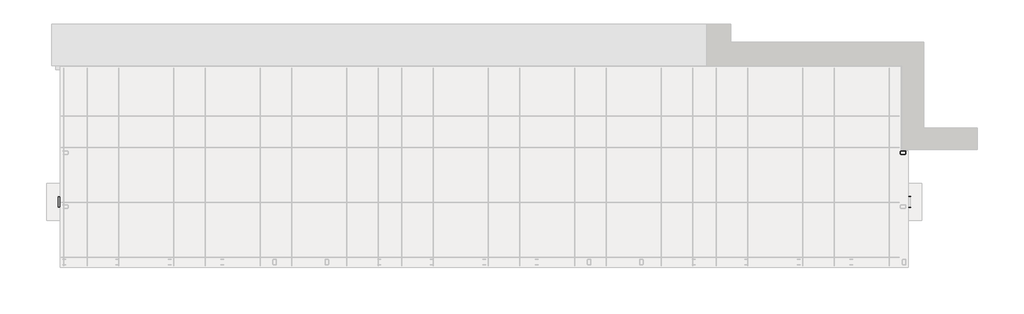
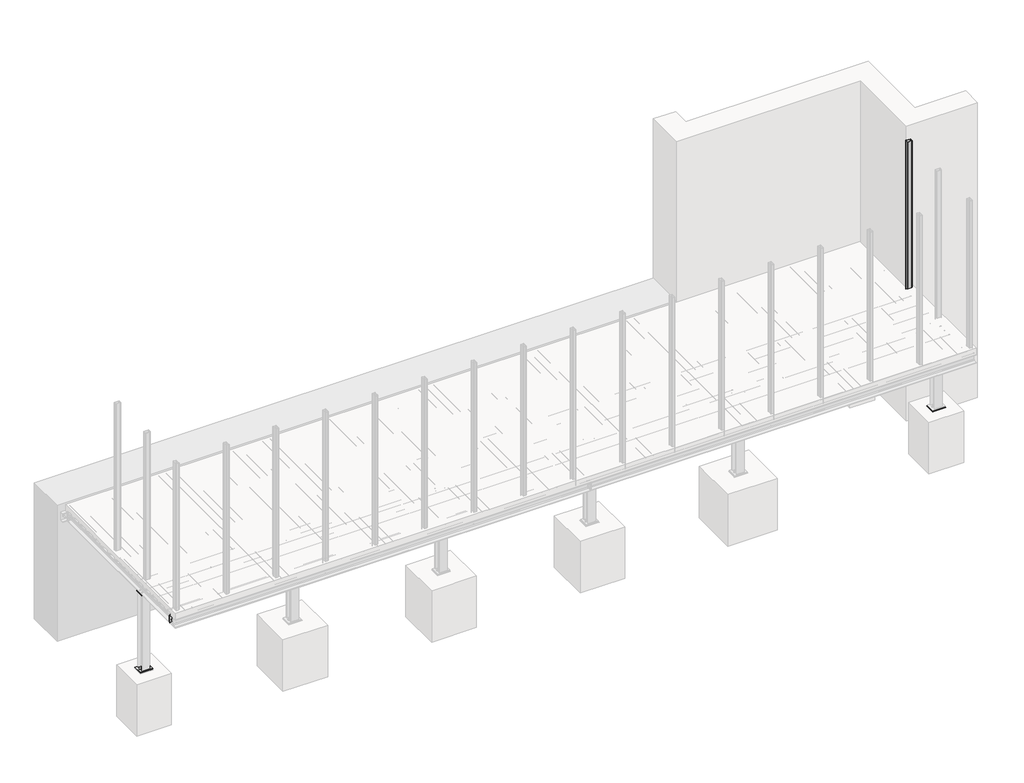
# One storey, part 6 of 36: 10 proxies, 1 beam, 1 column, 1 plate.
"""IFC4 building model written with IfcOpenShell, lengths in millimetres."""

from ifc_helpers import new_model, si_unit, point, frame, frame_2d, origin, place, context, project, spatial, polyline, circle_curve, ellipse_curve, trimmed, segment, composite_curve, outline, extrude, faceted_brep, element, save
from ifc_brep_helpers import plane_surface, revolved_surface, advanced_brep

model = new_model("IFC4")

# Units and contexts
model_context = context("Model", 3, world=origin())
ifc_project = project(units=[si_unit("LENGTHUNIT", "METRE", prefix="MILLI")], contexts=[model_context])

# Site, building, storey
site = spatial("IfcSite", under=ifc_project)
building = spatial("IfcBuilding", under=site)
storey = spatial("IfcBuildingStorey", under=building, Name="Základy", Elevation=-1200.0)

# Beam
placement = place(None, origin())
element("IfcBeam", 1, ObjectType="HEB180", at=placement, inside=storey, context=model_context, shape_type="AdvancedBrep", body=[
    advanced_brep(
    [(16140.0, 210.0, -160.0), (15960.0, 210.0, -160.0), (15960.0, 210.0, -174.0), (16030.75, 210.0, -174.0), (16045.75, 210.0, -189.0), (16045.75, 210.0, -311.0), (16030.75, 210.0, -326.0), (15960.0, 210.0, -326.0), (15960.0, 210.0, -340.0), (16140.0, 210.0, -340.0), (16140.0, 210.0, -326.0), (16069.25, 210.0, -326.0), (16054.25, 210.0, -311.0), (16054.25, 210.0, -189.0), (16069.25, 210.0, -174.0), (16140.0, 210.0, -174.0), (16140.0, 2230.0, -160.0), (15960.0, 2050.0, -160.0), (15960.0, 2050.0, -174.0), (16030.75, 2120.75, -174.0), (16045.75, 2135.75, -189.0), (16045.75, 2135.75, -311.0), (16030.75, 2120.75, -326.0), (15960.0, 2050.0, -326.0), (15960.0, 2050.0, -340.0), (16140.0, 2230.0, -340.0), (16140.0, 2230.0, -326.0), (16069.25, 2159.25, -326.0), (16054.25, 2144.25, -311.0), (16054.25, 2144.25, -189.0), (16069.25, 2159.25, -174.0), (16140.0, 2230.0, -174.0)],
    [
        (0, 1),
        (1, 2),
        (2, 3),
        (3, 4, circle_curve(frame((16030.75, 210.0, -189.0), z_axis=(0.0, 1.0, 0.0), x_axis=(-1.0, 0.0, 0.0)), 15.0)),
        (4, 5),
        (5, 6, circle_curve(frame((16030.75, 210.0, -311.0), z_axis=(0.0, 1.0, 0.0), x_axis=(-1.0, 0.0, 0.0)), 15.0)),
        (6, 7),
        (7, 8),
        (8, 9),
        (9, 10),
        (10, 11),
        (11, 12, circle_curve(frame((16069.25, 210.0, -311.0), z_axis=(0.0, 1.0, 0.0), x_axis=(-1.0, 0.0, 0.0)), 15.0)),
        (12, 13),
        (13, 14, circle_curve(frame((16069.25, 210.0, -189.0), z_axis=(0.0, 1.0, 0.0), x_axis=(-1.0, 0.0, 0.0)), 15.0)),
        (14, 15),
        (15, 0),
        (0, 16),
        (16, 17),
        (17, 1),
        (17, 18),
        (18, 2),
        (18, 19),
        (19, 3),
        (19, 20, ellipse_curve(frame((16030.75, 2120.75, -189.0), z_axis=(-0.7071067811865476, 0.7071067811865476, 0.0), x_axis=(0.7071067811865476, 0.7071067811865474, 0.0)), 21.2132034, 15.0)),
        (20, 4),
        (20, 21),
        (21, 5),
        (21, 22, ellipse_curve(frame((16030.75, 2120.75, -311.0), z_axis=(-0.7071067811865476, 0.7071067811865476, 0.0), x_axis=(0.7071067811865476, 0.7071067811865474, 0.0)), 21.2132034, 15.0)),
        (22, 6),
        (22, 23),
        (23, 7),
        (23, 24),
        (24, 8),
        (24, 25),
        (25, 9),
        (25, 26),
        (26, 10),
        (26, 27),
        (27, 11),
        (27, 28, ellipse_curve(frame((16069.25, 2159.25, -311.0), z_axis=(-0.7071067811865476, 0.7071067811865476, 0.0), x_axis=(0.7071067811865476, 0.7071067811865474, 0.0)), 21.2132034, 15.0)),
        (28, 12),
        (28, 29),
        (29, 13),
        (29, 30, ellipse_curve(frame((16069.25, 2159.25, -189.0), z_axis=(-0.7071067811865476, 0.7071067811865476, 0.0), x_axis=(0.7071067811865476, 0.7071067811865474, 0.0)), 21.2132034, 15.0)),
        (30, 14),
        (30, 31),
        (31, 15),
        (31, 16),
    ],
    [
        plane_surface(frame((16050.0, 210.0, -250.0), z_axis=(0.0, -1.0, 0.0), x_axis=(0.0, 0.0, -1.0))),
        plane_surface(frame((16140.0, 210.0, -160.0), z_axis=(0.0, 0.0, 1.0), x_axis=(0.0, 1.0, 0.0))),
        plane_surface(frame((15960.0, 210.0, -160.0), z_axis=(-1.0, 0.0, 0.0), x_axis=(0.0, 1.0, 0.0))),
        plane_surface(frame((15960.0, 210.0, -174.0), z_axis=(0.0, 0.0, -1.0), x_axis=(0.0, 1.0, 0.0))),
        revolved_surface(polyline([(16015.75, 2135.75, -189.0), (16015.75, 210.0, -189.0)]), (16030.75, 2240.0, -189.0), (0.0, 1.0, 0.0)),
        plane_surface(frame((16045.75, 210.0, -189.0), z_axis=(-1.0, 0.0, 0.0), x_axis=(0.0, 1.0, 0.0))),
        revolved_surface(polyline([(16015.75, 2135.75, -311.0), (16015.75, 210.0, -311.0)]), (16030.75, 2240.0, -311.0), (0.0, 1.0, 0.0)),
        plane_surface(frame((16030.75, 210.0, -326.0), z_axis=(0.0, 0.0, 1.0), x_axis=(0.0, 1.0, 0.0))),
        plane_surface(frame((15960.0, 210.0, -326.0), z_axis=(-1.0, 0.0, 0.0), x_axis=(0.0, 1.0, 0.0))),
        plane_surface(frame((15960.0, 210.0, -340.0), z_axis=(0.0, 0.0, -1.0), x_axis=(0.0, 1.0, 0.0))),
        plane_surface(frame((16140.0, 210.0, -340.0), z_axis=(1.0, 0.0, 0.0), x_axis=(0.0, 1.0, 0.0))),
        plane_surface(frame((16140.0, 210.0, -326.0), z_axis=(0.0, 0.0, 1.0), x_axis=(0.0, 1.0, 0.0))),
        revolved_surface(polyline([(16054.25, 2174.2499999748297, -311.0), (16054.25, 210.0, -311.0)]), (16069.25, 2240.0, -311.0), (0.0, 1.0, 0.0)),
        plane_surface(frame((16054.25, 210.0, -311.0), z_axis=(1.0, 0.0, 0.0), x_axis=(0.0, 1.0, 0.0))),
        revolved_surface(polyline([(16054.25, 2174.2499999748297, -189.0), (16054.25, 210.0, -189.0)]), (16069.25, 2240.0, -189.0), (0.0, 1.0, 0.0)),
        plane_surface(frame((16069.25, 210.0, -174.0), z_axis=(0.0, 0.0, -1.0), x_axis=(0.0, 1.0, 0.0))),
        plane_surface(frame((16140.0, 210.0, -174.0), z_axis=(1.0, 0.0, 0.0), x_axis=(0.0, 1.0, 0.0))),
        plane_surface(frame((16150.0, 2240.0, -360.0), z_axis=(-0.7071067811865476, 0.7071067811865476, 0.0), x_axis=(0.7071067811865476, 0.7071067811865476, 0.0))),
    ],
    [
        (0, [[1, 2, 3, 4, 5, 6, 7, 8, 9, 10, 11, 12, 13, 14, 15, 16]]),
        (1, [[-1, 17, 18, 19]]),
        (2, [[-2, -19, 20, 21]]),
        (3, [[-3, -21, 22, 23]]),
        (4, [[-4, -23, 24, 25]]),
        (5, [[-5, -25, 26, 27]]),
        (6, [[-6, -27, 28, 29]]),
        (7, [[-7, -29, 30, 31]]),
        (8, [[-8, -31, 32, 33]]),
        (9, [[-9, -33, 34, 35]]),
        (10, [[-10, -35, 36, 37]]),
        (11, [[-11, -37, 38, 39]]),
        (12, [[-12, -39, 40, 41]]),
        (13, [[-13, -41, 42, 43]]),
        (14, [[-14, -43, 44, 45]]),
        (15, [[-15, -45, 46, 47]]),
        (16, [[-16, -47, 48, -17]]),
        (17, [[-18, -48, -46, -44, -42, -40, -38, -36, -34, -32, -30, -28, -26, -24, -22, -20]]),
    ],
),
])

# Proxies
element("IfcBuildingElementProxy", 2, Name="PLECH", ObjectType="PLECH", at=placement, inside=storey, context=model_context, shape_type="SweptSolid", body=[
    extrude(outline(polyline([(150.0, 1200.0), (150.0, 1320.0), (160.0, 1320.0), (160.0, 1200.0), (150.0, 1200.0)])), frame((0.0, 0.0, -299.0), z_axis=(0.0, 0.0, 1.0), x_axis=(1.0, 0.0, 0.0)), (0.0, 0.0, 1.0), 98.0),
])
element("IfcBuildingElementProxy", 3, Name="PLECH", ObjectType="PLECH", at=placement, inside=storey, context=model_context, shape_type="SweptSolid", body=[
    extrude(outline(polyline([(140.0, 1200.0), (140.0, 1320.0), (150.0, 1320.0), (150.0, 1200.0), (140.0, 1200.0)])), frame((0.0, 0.0, -332.0), z_axis=(0.0, 0.0, 1.0), x_axis=(1.0, 0.0, 0.0)), (0.0, 0.0, 1.0), 164.0),
])
element("IfcBuildingElementProxy", 4, Name="PLECH", ObjectType="PLECH", at=placement, inside=storey, context=model_context, shape_type="SweptSolid", body=[
    extrude(outline(composite_curve([segment(polyline([(-174.0, 140.0), (-174.0, 79.5)]), True, "CONTINUOUS"), segment(trimmed(circle_curve(frame_2d((-174.0, 54.5)), 25.0), [point((-174.0, 79.5))], [point((-199.0, 54.5))], True, "CARTESIAN"), True, "CONTINUOUS"), segment(polyline([(-199.0, 54.5), (-301.0, 54.5)]), True, "CONTINUOUS"), segment(trimmed(circle_curve(frame_2d((-326.0, 54.5)), 25.0), [point((-301.0, 54.5))], [point((-326.0, 79.5))], True, "CARTESIAN"), True, "CONTINUOUS"), segment(polyline([(-326.0, 79.5), (-326.0, 140.0), (-174.0, 140.0)]), True, "CONTINUOUS")], self_intersect=False)), frame((0.0, 1256.0, 0.0), z_axis=(0.0, 1.0, 0.0), x_axis=(0.0, 0.0, 1.0)), (0.0, 0.0, 1.0), 8.0),
])
element("IfcBuildingElementProxy", 5, Name="PLECH", ObjectType="PLECH", at=placement, inside=storey, context=model_context, shape_type="SweptSolid", body=[
    extrude(outline(polyline([(-40.0, 210.0), (140.0, 210.0), (140.0, 200.0), (-40.0, 200.0), (-40.0, 210.0)])), frame((0.0, 0.0, -332.0), z_axis=(0.0, 0.0, 1.0), x_axis=(1.0, 0.0, 0.0)), (0.0, 0.0, 1.0), 164.0),
])
element("IfcBuildingElementProxy", 6, Name="PLECH", ObjectType="PLECH", at=placement, inside=storey, context=model_context, shape_type="SweptSolid", body=[
    extrude(outline(composite_curve([segment(polyline([(190.0, -174.0), (190.0, -326.0), (124.25, -326.0)]), True, "CONTINUOUS"), segment(trimmed(circle_curve(frame_2d((104.25, -326.0)), 20.0), [point((124.25, -326.0))], [point((104.25, -306.0))], True, "CARTESIAN"), True, "CONTINUOUS"), segment(polyline([(104.25, -306.0), (104.25, -194.0)]), True, "CONTINUOUS"), segment(trimmed(circle_curve(frame_2d((104.25, -174.0)), 20.0), [point((104.25, -194.0))], [point((124.25, -174.0))], True, "CARTESIAN"), True, "CONTINUOUS"), segment(polyline([(124.25, -174.0), (190.0, -174.0)]), True, "CONTINUOUS")], self_intersect=False)), frame((46.0, 0.0, 0.0), z_axis=(1.0, 0.0, 0.0), x_axis=(0.0, 1.0, 0.0)), (0.0, 0.0, 1.0), 8.0),
])
element("IfcBuildingElementProxy", 7, Name="PLECH", ObjectType="PLECH", at=placement, inside=storey, context=model_context, shape_type="SweptSolid", body=[
    extrude(outline(polyline([(-40.0, 200.0), (140.0, 200.0), (140.0, 190.0), (-40.0, 190.0), (-40.0, 200.0)])), frame((0.0, 0.0, -332.0), z_axis=(0.0, 0.0, 1.0), x_axis=(1.0, 0.0, 0.0)), (0.0, 0.0, 1.0), 164.0),
])
element("IfcBuildingElementProxy", 8, Name="PLECH", ObjectType="PLECH", at=placement, inside=storey, context=model_context, shape_type="SweptSolid", body=[
    extrude(outline(polyline([(175.0, 1356.0), (175.0, 1164.0), (-75.0, 1164.0), (-75.0, 1356.0), (175.0, 1356.0)])), frame((0.0, 0.0, -1990.0), z_axis=(0.0, 0.0, 1.0), x_axis=(1.0, 0.0, 0.0)), (0.0, 0.0, 1.0), 15.0),
])
element("IfcBuildingElementProxy", 9, Name="PLECH", ObjectType="PLECH", at=placement, inside=storey, context=model_context, shape_type="SweptSolid", body=[
    extrude(outline(polyline([(140.0, 1346.0), (140.0, 1174.0), (-40.0, 1174.0), (-40.0, 1346.0), (140.0, 1346.0)])), frame((0.0, 0.0, -350.0), z_axis=(0.0, 0.0, 1.0), x_axis=(1.0, 0.0, 0.0)), (0.0, 0.0, 1.0), 10.0),
])
element("IfcBuildingElementProxy", 10, Name="Bolt assembly", ObjectType="Bolt assembly", at=placement, inside=storey, context=model_context, shape_type="SweptSolid", body=[
    extrude(outline(composite_curve([segment(trimmed(circle_curve(frame_2d((1230.0, -225.0)), 6.5), [point((1230.0, -231.5))], [point((1230.0, -218.5))], False, "CARTESIAN"), True, "CONTINUOUS"), segment(trimmed(circle_curve(frame_2d((1230.0, -225.0)), 6.5), [point((1230.0, -218.5))], [point((1230.0, -231.5))], False, "CARTESIAN"), True, "CONTINUOUS")], self_intersect=False)), frame((140.1, 0.0, 0.0), z_axis=(1.0, 0.0, 0.0), x_axis=(0.0, 1.0, 0.0)), (0.0, 0.0, 1.0), 10.0),
    extrude(outline(polyline([(1230.0, -235.3923048), (1221.0, -230.1961524), (1221.0, -219.8038476), (1230.0, -214.6076952), (1239.0, -219.8038476), (1239.0, -230.1961524), (1230.0, -235.3923048)])), frame((130.0, 0.0, 0.0), z_axis=(1.0, 0.0, 0.0), x_axis=(0.0, 1.0, 0.0)), (0.0, 0.0, 1.0), 7.5),
    extrude(outline(composite_curve([segment(trimmed(circle_curve(frame_2d((1230.0, -225.0)), 6.0), [point((1230.0, -231.0))], [point((1230.0, -219.0))], False, "CARTESIAN"), True, "CONTINUOUS"), segment(trimmed(circle_curve(frame_2d((1230.0, -225.0)), 6.0), [point((1230.0, -219.0))], [point((1230.0, -231.0))], False, "CARTESIAN"), True, "CONTINUOUS")], self_intersect=False)), frame((137.5, 0.0, 0.0), z_axis=(1.0, 0.0, 0.0), x_axis=(0.0, 1.0, 0.0)), (0.0, 0.0, 1.0), 40.0),
    extrude(outline(composite_curve([segment(trimmed(circle_curve(frame_2d((1230.0, -225.0)), 12.0), [point((1230.0, -237.0))], [point((1230.0, -213.0))], False, "CARTESIAN"), True, "CONTINUOUS"), segment(trimmed(circle_curve(frame_2d((1230.0, -225.0)), 12.0), [point((1230.0, -213.0))], [point((1230.0, -237.0))], False, "CARTESIAN"), True, "CONTINUOUS")], self_intersect=False)), frame((137.5, 0.0, 0.0), z_axis=(1.0, 0.0, 0.0), x_axis=(0.0, 1.0, 0.0)), (0.0, 0.0, 1.0), 2.5),
    extrude(outline(composite_curve([segment(trimmed(circle_curve(frame_2d((1230.0, -225.0)), 12.0), [point((1230.0, -237.0))], [point((1230.0, -213.0))], False, "CARTESIAN"), True, "CONTINUOUS"), segment(trimmed(circle_curve(frame_2d((1230.0, -225.0)), 12.0), [point((1230.0, -213.0))], [point((1230.0, -237.0))], False, "CARTESIAN"), True, "CONTINUOUS")], self_intersect=False)), frame((160.0, 0.0, 0.0), z_axis=(1.0, 0.0, 0.0), x_axis=(0.0, 1.0, 0.0)), (0.0, 0.0, 1.0), 2.5),
    extrude(outline(polyline([(1230.0, -235.9696551), (1220.5, -230.4848276), (1220.5, -219.5151724), (1230.0, -214.0303449), (1239.5, -219.5151724), (1239.5, -230.4848276), (1230.0, -235.9696551)])), frame((162.5, 0.0, 0.0), z_axis=(1.0, 0.0, 0.0), x_axis=(0.0, 1.0, 0.0)), (0.0, 0.0, 1.0), 10.0),
    extrude(outline(composite_curve([segment(trimmed(circle_curve(frame_2d((1230.0, -225.0)), 6.5), [point((1230.0, -231.5))], [point((1230.0, -218.5))], False, "CARTESIAN"), True, "CONTINUOUS"), segment(trimmed(circle_curve(frame_2d((1230.0, -225.0)), 6.5), [point((1230.0, -218.5))], [point((1230.0, -231.5))], False, "CARTESIAN"), True, "CONTINUOUS")], self_intersect=False)), frame((149.9, 0.0, 0.0), z_axis=(1.0, 0.0, 0.0), x_axis=(0.0, 1.0, 0.0)), (0.0, 0.0, 1.0), 10.1),
    extrude(outline(composite_curve([segment(trimmed(circle_curve(frame_2d((1230.0, -275.0)), 6.5), [point((1230.0, -281.5))], [point((1230.0, -268.5))], False, "CARTESIAN"), True, "CONTINUOUS"), segment(trimmed(circle_curve(frame_2d((1230.0, -275.0)), 6.5), [point((1230.0, -268.5))], [point((1230.0, -281.5))], False, "CARTESIAN"), True, "CONTINUOUS")], self_intersect=False)), frame((140.1, 0.0, 0.0), z_axis=(1.0, 0.0, 0.0), x_axis=(0.0, 1.0, 0.0)), (0.0, 0.0, 1.0), 10.0),
    extrude(outline(polyline([(1230.0, -285.3923048), (1221.0, -280.1961524), (1221.0, -269.8038476), (1230.0, -264.6076952), (1239.0, -269.8038476), (1239.0, -280.1961524), (1230.0, -285.3923048)])), frame((130.0, 0.0, 0.0), z_axis=(1.0, 0.0, 0.0), x_axis=(0.0, 1.0, 0.0)), (0.0, 0.0, 1.0), 7.5),
    extrude(outline(composite_curve([segment(trimmed(circle_curve(frame_2d((1230.0, -275.0)), 6.0), [point((1230.0, -281.0))], [point((1230.0, -269.0))], False, "CARTESIAN"), True, "CONTINUOUS"), segment(trimmed(circle_curve(frame_2d((1230.0, -275.0)), 6.0), [point((1230.0, -269.0))], [point((1230.0, -281.0))], False, "CARTESIAN"), True, "CONTINUOUS")], self_intersect=False)), frame((137.5, 0.0, 0.0), z_axis=(1.0, 0.0, 0.0), x_axis=(0.0, 1.0, 0.0)), (0.0, 0.0, 1.0), 40.0),
    extrude(outline(composite_curve([segment(trimmed(circle_curve(frame_2d((1230.0, -275.0)), 12.0), [point((1230.0, -287.0))], [point((1230.0, -263.0))], False, "CARTESIAN"), True, "CONTINUOUS"), segment(trimmed(circle_curve(frame_2d((1230.0, -275.0)), 12.0), [point((1230.0, -263.0))], [point((1230.0, -287.0))], False, "CARTESIAN"), True, "CONTINUOUS")], self_intersect=False)), frame((137.5, 0.0, 0.0), z_axis=(1.0, 0.0, 0.0), x_axis=(0.0, 1.0, 0.0)), (0.0, 0.0, 1.0), 2.5),
    extrude(outline(composite_curve([segment(trimmed(circle_curve(frame_2d((1230.0, -275.0)), 12.0), [point((1230.0, -287.0))], [point((1230.0, -263.0))], False, "CARTESIAN"), True, "CONTINUOUS"), segment(trimmed(circle_curve(frame_2d((1230.0, -275.0)), 12.0), [point((1230.0, -263.0))], [point((1230.0, -287.0))], False, "CARTESIAN"), True, "CONTINUOUS")], self_intersect=False)), frame((160.0, 0.0, 0.0), z_axis=(1.0, 0.0, 0.0), x_axis=(0.0, 1.0, 0.0)), (0.0, 0.0, 1.0), 2.5),
    extrude(outline(polyline([(1230.0, -285.9696551), (1220.5, -280.4848276), (1220.5, -269.5151724), (1230.0, -264.0303449), (1239.5, -269.5151724), (1239.5, -280.4848276), (1230.0, -285.9696551)])), frame((162.5, 0.0, 0.0), z_axis=(1.0, 0.0, 0.0), x_axis=(0.0, 1.0, 0.0)), (0.0, 0.0, 1.0), 10.0),
    extrude(outline(composite_curve([segment(trimmed(circle_curve(frame_2d((1230.0, -275.0)), 6.5), [point((1230.0, -281.5))], [point((1230.0, -268.5))], False, "CARTESIAN"), True, "CONTINUOUS"), segment(trimmed(circle_curve(frame_2d((1230.0, -275.0)), 6.5), [point((1230.0, -268.5))], [point((1230.0, -281.5))], False, "CARTESIAN"), True, "CONTINUOUS")], self_intersect=False)), frame((149.9, 0.0, 0.0), z_axis=(1.0, 0.0, 0.0), x_axis=(0.0, 1.0, 0.0)), (0.0, 0.0, 1.0), 10.1),
    extrude(outline(composite_curve([segment(trimmed(circle_curve(frame_2d((1290.0, -225.0)), 6.5), [point((1290.0, -231.5))], [point((1290.0, -218.5))], False, "CARTESIAN"), True, "CONTINUOUS"), segment(trimmed(circle_curve(frame_2d((1290.0, -225.0)), 6.5), [point((1290.0, -218.5))], [point((1290.0, -231.5))], False, "CARTESIAN"), True, "CONTINUOUS")], self_intersect=False)), frame((140.1, 0.0, 0.0), z_axis=(1.0, 0.0, 0.0), x_axis=(0.0, 1.0, 0.0)), (0.0, 0.0, 1.0), 10.0),
    extrude(outline(polyline([(1290.0, -235.3923048), (1281.0, -230.1961524), (1281.0, -219.8038476), (1290.0, -214.6076952), (1299.0, -219.8038476), (1299.0, -230.1961524), (1290.0, -235.3923048)])), frame((130.0, 0.0, 0.0), z_axis=(1.0, 0.0, 0.0), x_axis=(0.0, 1.0, 0.0)), (0.0, 0.0, 1.0), 7.5),
    extrude(outline(composite_curve([segment(trimmed(circle_curve(frame_2d((1290.0, -225.0)), 6.0), [point((1290.0, -231.0))], [point((1290.0, -219.0))], False, "CARTESIAN"), True, "CONTINUOUS"), segment(trimmed(circle_curve(frame_2d((1290.0, -225.0)), 6.0), [point((1290.0, -219.0))], [point((1290.0, -231.0))], False, "CARTESIAN"), True, "CONTINUOUS")], self_intersect=False)), frame((137.5, 0.0, 0.0), z_axis=(1.0, 0.0, 0.0), x_axis=(0.0, 1.0, 0.0)), (0.0, 0.0, 1.0), 40.0),
    extrude(outline(composite_curve([segment(trimmed(circle_curve(frame_2d((1290.0, -225.0)), 12.0), [point((1290.0, -237.0))], [point((1290.0, -213.0))], False, "CARTESIAN"), True, "CONTINUOUS"), segment(trimmed(circle_curve(frame_2d((1290.0, -225.0)), 12.0), [point((1290.0, -213.0))], [point((1290.0, -237.0))], False, "CARTESIAN"), True, "CONTINUOUS")], self_intersect=False)), frame((137.5, 0.0, 0.0), z_axis=(1.0, 0.0, 0.0), x_axis=(0.0, 1.0, 0.0)), (0.0, 0.0, 1.0), 2.5),
    extrude(outline(composite_curve([segment(trimmed(circle_curve(frame_2d((1290.0, -225.0)), 12.0), [point((1290.0, -237.0))], [point((1290.0, -213.0))], False, "CARTESIAN"), True, "CONTINUOUS"), segment(trimmed(circle_curve(frame_2d((1290.0, -225.0)), 12.0), [point((1290.0, -213.0))], [point((1290.0, -237.0))], False, "CARTESIAN"), True, "CONTINUOUS")], self_intersect=False)), frame((160.0, 0.0, 0.0), z_axis=(1.0, 0.0, 0.0), x_axis=(0.0, 1.0, 0.0)), (0.0, 0.0, 1.0), 2.5),
    extrude(outline(polyline([(1290.0, -235.9696551), (1280.5, -230.4848276), (1280.5, -219.5151724), (1290.0, -214.0303449), (1299.5, -219.5151724), (1299.5, -230.4848276), (1290.0, -235.9696551)])), frame((162.5, 0.0, 0.0), z_axis=(1.0, 0.0, 0.0), x_axis=(0.0, 1.0, 0.0)), (0.0, 0.0, 1.0), 10.0),
    extrude(outline(composite_curve([segment(trimmed(circle_curve(frame_2d((1290.0, -225.0)), 6.5), [point((1290.0, -231.5))], [point((1290.0, -218.5))], False, "CARTESIAN"), True, "CONTINUOUS"), segment(trimmed(circle_curve(frame_2d((1290.0, -225.0)), 6.5), [point((1290.0, -218.5))], [point((1290.0, -231.5))], False, "CARTESIAN"), True, "CONTINUOUS")], self_intersect=False)), frame((149.9, 0.0, 0.0), z_axis=(1.0, 0.0, 0.0), x_axis=(0.0, 1.0, 0.0)), (0.0, 0.0, 1.0), 10.1),
    extrude(outline(composite_curve([segment(trimmed(circle_curve(frame_2d((1290.0, -275.0)), 6.5), [point((1290.0, -281.5))], [point((1290.0, -268.5))], False, "CARTESIAN"), True, "CONTINUOUS"), segment(trimmed(circle_curve(frame_2d((1290.0, -275.0)), 6.5), [point((1290.0, -268.5))], [point((1290.0, -281.5))], False, "CARTESIAN"), True, "CONTINUOUS")], self_intersect=False)), frame((140.1, 0.0, 0.0), z_axis=(1.0, 0.0, 0.0), x_axis=(0.0, 1.0, 0.0)), (0.0, 0.0, 1.0), 10.0),
    extrude(outline(polyline([(1290.0, -285.3923048), (1281.0, -280.1961524), (1281.0, -269.8038476), (1290.0, -264.6076952), (1299.0, -269.8038476), (1299.0, -280.1961524), (1290.0, -285.3923048)])), frame((130.0, 0.0, 0.0), z_axis=(1.0, 0.0, 0.0), x_axis=(0.0, 1.0, 0.0)), (0.0, 0.0, 1.0), 7.5),
    extrude(outline(composite_curve([segment(trimmed(circle_curve(frame_2d((1290.0, -275.0)), 6.0), [point((1290.0, -281.0))], [point((1290.0, -269.0))], False, "CARTESIAN"), True, "CONTINUOUS"), segment(trimmed(circle_curve(frame_2d((1290.0, -275.0)), 6.0), [point((1290.0, -269.0))], [point((1290.0, -281.0))], False, "CARTESIAN"), True, "CONTINUOUS")], self_intersect=False)), frame((137.5, 0.0, 0.0), z_axis=(1.0, 0.0, 0.0), x_axis=(0.0, 1.0, 0.0)), (0.0, 0.0, 1.0), 40.0),
    extrude(outline(composite_curve([segment(trimmed(circle_curve(frame_2d((1290.0, -275.0)), 12.0), [point((1290.0, -287.0))], [point((1290.0, -263.0))], False, "CARTESIAN"), True, "CONTINUOUS"), segment(trimmed(circle_curve(frame_2d((1290.0, -275.0)), 12.0), [point((1290.0, -263.0))], [point((1290.0, -287.0))], False, "CARTESIAN"), True, "CONTINUOUS")], self_intersect=False)), frame((137.5, 0.0, 0.0), z_axis=(1.0, 0.0, 0.0), x_axis=(0.0, 1.0, 0.0)), (0.0, 0.0, 1.0), 2.5),
    extrude(outline(composite_curve([segment(trimmed(circle_curve(frame_2d((1290.0, -275.0)), 12.0), [point((1290.0, -287.0))], [point((1290.0, -263.0))], False, "CARTESIAN"), True, "CONTINUOUS"), segment(trimmed(circle_curve(frame_2d((1290.0, -275.0)), 12.0), [point((1290.0, -263.0))], [point((1290.0, -287.0))], False, "CARTESIAN"), True, "CONTINUOUS")], self_intersect=False)), frame((160.0, 0.0, 0.0), z_axis=(1.0, 0.0, 0.0), x_axis=(0.0, 1.0, 0.0)), (0.0, 0.0, 1.0), 2.5),
    extrude(outline(polyline([(1290.0, -285.9696551), (1280.5, -280.4848276), (1280.5, -269.5151724), (1290.0, -264.0303449), (1299.5, -269.5151724), (1299.5, -280.4848276), (1290.0, -285.9696551)])), frame((162.5, 0.0, 0.0), z_axis=(1.0, 0.0, 0.0), x_axis=(0.0, 1.0, 0.0)), (0.0, 0.0, 1.0), 10.0),
    extrude(outline(composite_curve([segment(trimmed(circle_curve(frame_2d((1290.0, -275.0)), 6.5), [point((1290.0, -281.5))], [point((1290.0, -268.5))], False, "CARTESIAN"), True, "CONTINUOUS"), segment(trimmed(circle_curve(frame_2d((1290.0, -275.0)), 6.5), [point((1290.0, -268.5))], [point((1290.0, -281.5))], False, "CARTESIAN"), True, "CONTINUOUS")], self_intersect=False)), frame((149.9, 0.0, 0.0), z_axis=(1.0, 0.0, 0.0), x_axis=(0.0, 1.0, 0.0)), (0.0, 0.0, 1.0), 10.1),
])
element("IfcBuildingElementProxy", 11, Name="Bolt assembly", ObjectType="Bolt assembly", at=placement, inside=storey, context=model_context, shape_type="SweptSolid", body=[
    extrude(outline(composite_curve([segment(trimmed(circle_curve(frame_2d((-290.0, 5.0)), 9.0), [point((-290.0, 14.0))], [point((-290.0, -4.0))], False, "CARTESIAN"), True, "CONTINUOUS"), segment(trimmed(circle_curve(frame_2d((-290.0, 5.0)), 9.0), [point((-290.0, -4.0))], [point((-290.0, 14.0))], False, "CARTESIAN"), True, "CONTINUOUS")], self_intersect=False)), frame((0.0, 190.1, 0.0), z_axis=(0.0, 1.0, 0.0), x_axis=(0.0, 0.0, 1.0)), (0.0, 0.0, 1.0), 10.0),
    extrude(outline(polyline([(-290.0, 18.8564065), (-278.0, 11.9282032), (-278.0, -1.9282032), (-290.0, -8.8564065), (-302.0, -1.9282032), (-302.0, 11.9282032), (-290.0, 18.8564065)])), frame((0.0, 177.0, 0.0), z_axis=(0.0, 1.0, 0.0), x_axis=(0.0, 0.0, 1.0)), (0.0, 0.0, 1.0), 10.0),
    extrude(outline(composite_curve([segment(trimmed(circle_curve(frame_2d((-290.0, 5.0)), 8.0), [point((-290.0, 13.0))], [point((-290.0, -3.0))], False, "CARTESIAN"), True, "CONTINUOUS"), segment(trimmed(circle_curve(frame_2d((-290.0, 5.0)), 8.0), [point((-290.0, -3.0))], [point((-290.0, 13.0))], False, "CARTESIAN"), True, "CONTINUOUS")], self_intersect=False)), frame((0.0, 187.0, 0.0), z_axis=(0.0, 1.0, 0.0), x_axis=(0.0, 0.0, 1.0)), (0.0, 0.0, 1.0), 50.0),
    extrude(outline(composite_curve([segment(trimmed(circle_curve(frame_2d((-290.0, 5.0)), 15.0), [point((-290.0, 20.0))], [point((-290.0, -10.0))], False, "CARTESIAN"), True, "CONTINUOUS"), segment(trimmed(circle_curve(frame_2d((-290.0, 5.0)), 15.0), [point((-290.0, -10.0))], [point((-290.0, 20.0))], False, "CARTESIAN"), True, "CONTINUOUS")], self_intersect=False)), frame((0.0, 187.0, 0.0), z_axis=(0.0, 1.0, 0.0), x_axis=(0.0, 0.0, 1.0)), (0.0, 0.0, 1.0), 3.0),
    extrude(outline(composite_curve([segment(trimmed(circle_curve(frame_2d((-290.0, 5.0)), 15.0), [point((-290.0, 20.0))], [point((-290.0, -10.0))], False, "CARTESIAN"), True, "CONTINUOUS"), segment(trimmed(circle_curve(frame_2d((-290.0, 5.0)), 15.0), [point((-290.0, -10.0))], [point((-290.0, 20.0))], False, "CARTESIAN"), True, "CONTINUOUS")], self_intersect=False)), frame((0.0, 210.0, 0.0), z_axis=(0.0, 1.0, 0.0), x_axis=(0.0, 0.0, 1.0)), (0.0, 0.0, 1.0), 3.0),
    extrude(outline(polyline([(-290.0, 20.4441197), (-276.625, 12.7220599), (-276.625, -2.7220599), (-290.0, -10.4441197), (-303.375, -2.7220599), (-303.375, 12.7220599), (-290.0, 20.4441197)])), frame((0.0, 213.0, 0.0), z_axis=(0.0, 1.0, 0.0), x_axis=(0.0, 0.0, 1.0)), (0.0, 0.0, 1.0), 13.0),
    extrude(outline(composite_curve([segment(trimmed(circle_curve(frame_2d((-290.0, 5.0)), 9.0), [point((-290.0, 14.0))], [point((-290.0, -4.0))], False, "CARTESIAN"), True, "CONTINUOUS"), segment(trimmed(circle_curve(frame_2d((-290.0, 5.0)), 9.0), [point((-290.0, -4.0))], [point((-290.0, 14.0))], False, "CARTESIAN"), True, "CONTINUOUS")], self_intersect=False)), frame((0.0, 199.9, 0.0), z_axis=(0.0, 1.0, 0.0), x_axis=(0.0, 0.0, 1.0)), (0.0, 0.0, 1.0), 10.1),
    extrude(outline(composite_curve([segment(trimmed(circle_curve(frame_2d((-290.0, 95.0)), 9.0), [point((-290.0, 104.0))], [point((-290.0, 86.0))], False, "CARTESIAN"), True, "CONTINUOUS"), segment(trimmed(circle_curve(frame_2d((-290.0, 95.0)), 9.0), [point((-290.0, 86.0))], [point((-290.0, 104.0))], False, "CARTESIAN"), True, "CONTINUOUS")], self_intersect=False)), frame((0.0, 190.1, 0.0), z_axis=(0.0, 1.0, 0.0), x_axis=(0.0, 0.0, 1.0)), (0.0, 0.0, 1.0), 10.0),
    extrude(outline(polyline([(-290.0, 108.8564065), (-278.0, 101.9282032), (-278.0, 88.0717968), (-290.0, 81.1435935), (-302.0, 88.0717968), (-302.0, 101.9282032), (-290.0, 108.8564065)])), frame((0.0, 177.0, 0.0), z_axis=(0.0, 1.0, 0.0), x_axis=(0.0, 0.0, 1.0)), (0.0, 0.0, 1.0), 10.0),
    extrude(outline(composite_curve([segment(trimmed(circle_curve(frame_2d((-290.0, 95.0)), 8.0), [point((-290.0, 103.0))], [point((-290.0, 87.0))], False, "CARTESIAN"), True, "CONTINUOUS"), segment(trimmed(circle_curve(frame_2d((-290.0, 95.0)), 8.0), [point((-290.0, 87.0))], [point((-290.0, 103.0))], False, "CARTESIAN"), True, "CONTINUOUS")], self_intersect=False)), frame((0.0, 187.0, 0.0), z_axis=(0.0, 1.0, 0.0), x_axis=(0.0, 0.0, 1.0)), (0.0, 0.0, 1.0), 50.0),
    extrude(outline(composite_curve([segment(trimmed(circle_curve(frame_2d((-290.0, 95.0)), 15.0), [point((-290.0, 110.0))], [point((-290.0, 80.0))], False, "CARTESIAN"), True, "CONTINUOUS"), segment(trimmed(circle_curve(frame_2d((-290.0, 95.0)), 15.0), [point((-290.0, 80.0))], [point((-290.0, 110.0))], False, "CARTESIAN"), True, "CONTINUOUS")], self_intersect=False)), frame((0.0, 187.0, 0.0), z_axis=(0.0, 1.0, 0.0), x_axis=(0.0, 0.0, 1.0)), (0.0, 0.0, 1.0), 3.0),
    extrude(outline(composite_curve([segment(trimmed(circle_curve(frame_2d((-290.0, 95.0)), 15.0), [point((-290.0, 110.0))], [point((-290.0, 80.0))], False, "CARTESIAN"), True, "CONTINUOUS"), segment(trimmed(circle_curve(frame_2d((-290.0, 95.0)), 15.0), [point((-290.0, 80.0))], [point((-290.0, 110.0))], False, "CARTESIAN"), True, "CONTINUOUS")], self_intersect=False)), frame((0.0, 210.0, 0.0), z_axis=(0.0, 1.0, 0.0), x_axis=(0.0, 0.0, 1.0)), (0.0, 0.0, 1.0), 3.0),
    extrude(outline(polyline([(-290.0, 110.4441197), (-276.625, 102.7220599), (-276.625, 87.2779401), (-290.0, 79.5558803), (-303.375, 87.2779401), (-303.375, 102.7220599), (-290.0, 110.4441197)])), frame((0.0, 213.0, 0.0), z_axis=(0.0, 1.0, 0.0), x_axis=(0.0, 0.0, 1.0)), (0.0, 0.0, 1.0), 13.0),
    extrude(outline(composite_curve([segment(trimmed(circle_curve(frame_2d((-290.0, 95.0)), 9.0), [point((-290.0, 104.0))], [point((-290.0, 86.0))], False, "CARTESIAN"), True, "CONTINUOUS"), segment(trimmed(circle_curve(frame_2d((-290.0, 95.0)), 9.0), [point((-290.0, 86.0))], [point((-290.0, 104.0))], False, "CARTESIAN"), True, "CONTINUOUS")], self_intersect=False)), frame((0.0, 199.9, 0.0), z_axis=(0.0, 1.0, 0.0), x_axis=(0.0, 0.0, 1.0)), (0.0, 0.0, 1.0), 10.1),
    extrude(outline(composite_curve([segment(trimmed(circle_curve(frame_2d((-210.0, 5.0)), 9.0), [point((-210.0, 14.0))], [point((-210.0, -4.0))], False, "CARTESIAN"), True, "CONTINUOUS"), segment(trimmed(circle_curve(frame_2d((-210.0, 5.0)), 9.0), [point((-210.0, -4.0))], [point((-210.0, 14.0))], False, "CARTESIAN"), True, "CONTINUOUS")], self_intersect=False)), frame((0.0, 190.1, 0.0), z_axis=(0.0, 1.0, 0.0), x_axis=(0.0, 0.0, 1.0)), (0.0, 0.0, 1.0), 10.0),
    extrude(outline(polyline([(-210.0, 18.8564065), (-198.0, 11.9282032), (-198.0, -1.9282032), (-210.0, -8.8564065), (-222.0, -1.9282032), (-222.0, 11.9282032), (-210.0, 18.8564065)])), frame((0.0, 177.0, 0.0), z_axis=(0.0, 1.0, 0.0), x_axis=(0.0, 0.0, 1.0)), (0.0, 0.0, 1.0), 10.0),
    extrude(outline(composite_curve([segment(trimmed(circle_curve(frame_2d((-210.0, 5.0)), 8.0), [point((-210.0, 13.0))], [point((-210.0, -3.0))], False, "CARTESIAN"), True, "CONTINUOUS"), segment(trimmed(circle_curve(frame_2d((-210.0, 5.0)), 8.0), [point((-210.0, -3.0))], [point((-210.0, 13.0))], False, "CARTESIAN"), True, "CONTINUOUS")], self_intersect=False)), frame((0.0, 187.0, 0.0), z_axis=(0.0, 1.0, 0.0), x_axis=(0.0, 0.0, 1.0)), (0.0, 0.0, 1.0), 50.0),
    extrude(outline(composite_curve([segment(trimmed(circle_curve(frame_2d((-210.0, 5.0)), 15.0), [point((-210.0, 20.0))], [point((-210.0, -10.0))], False, "CARTESIAN"), True, "CONTINUOUS"), segment(trimmed(circle_curve(frame_2d((-210.0, 5.0)), 15.0), [point((-210.0, -10.0))], [point((-210.0, 20.0))], False, "CARTESIAN"), True, "CONTINUOUS")], self_intersect=False)), frame((0.0, 187.0, 0.0), z_axis=(0.0, 1.0, 0.0), x_axis=(0.0, 0.0, 1.0)), (0.0, 0.0, 1.0), 3.0),
    extrude(outline(composite_curve([segment(trimmed(circle_curve(frame_2d((-210.0, 5.0)), 15.0), [point((-210.0, 20.0))], [point((-210.0, -10.0))], False, "CARTESIAN"), True, "CONTINUOUS"), segment(trimmed(circle_curve(frame_2d((-210.0, 5.0)), 15.0), [point((-210.0, -10.0))], [point((-210.0, 20.0))], False, "CARTESIAN"), True, "CONTINUOUS")], self_intersect=False)), frame((0.0, 210.0, 0.0), z_axis=(0.0, 1.0, 0.0), x_axis=(0.0, 0.0, 1.0)), (0.0, 0.0, 1.0), 3.0),
    extrude(outline(polyline([(-210.0, 20.4441197), (-196.625, 12.7220599), (-196.625, -2.7220599), (-210.0, -10.4441197), (-223.375, -2.7220599), (-223.375, 12.7220599), (-210.0, 20.4441197)])), frame((0.0, 213.0, 0.0), z_axis=(0.0, 1.0, 0.0), x_axis=(0.0, 0.0, 1.0)), (0.0, 0.0, 1.0), 13.0),
    extrude(outline(composite_curve([segment(trimmed(circle_curve(frame_2d((-210.0, 5.0)), 9.0), [point((-210.0, 14.0))], [point((-210.0, -4.0))], False, "CARTESIAN"), True, "CONTINUOUS"), segment(trimmed(circle_curve(frame_2d((-210.0, 5.0)), 9.0), [point((-210.0, -4.0))], [point((-210.0, 14.0))], False, "CARTESIAN"), True, "CONTINUOUS")], self_intersect=False)), frame((0.0, 199.9, 0.0), z_axis=(0.0, 1.0, 0.0), x_axis=(0.0, 0.0, 1.0)), (0.0, 0.0, 1.0), 10.1),
    extrude(outline(composite_curve([segment(trimmed(circle_curve(frame_2d((-210.0, 95.0)), 9.0), [point((-210.0, 104.0))], [point((-210.0, 86.0))], False, "CARTESIAN"), True, "CONTINUOUS"), segment(trimmed(circle_curve(frame_2d((-210.0, 95.0)), 9.0), [point((-210.0, 86.0))], [point((-210.0, 104.0))], False, "CARTESIAN"), True, "CONTINUOUS")], self_intersect=False)), frame((0.0, 190.1, 0.0), z_axis=(0.0, 1.0, 0.0), x_axis=(0.0, 0.0, 1.0)), (0.0, 0.0, 1.0), 10.0),
    extrude(outline(polyline([(-210.0, 108.8564065), (-198.0, 101.9282032), (-198.0, 88.0717968), (-210.0, 81.1435935), (-222.0, 88.0717968), (-222.0, 101.9282032), (-210.0, 108.8564065)])), frame((0.0, 177.0, 0.0), z_axis=(0.0, 1.0, 0.0), x_axis=(0.0, 0.0, 1.0)), (0.0, 0.0, 1.0), 10.0),
    extrude(outline(composite_curve([segment(trimmed(circle_curve(frame_2d((-210.0, 95.0)), 8.0), [point((-210.0, 103.0))], [point((-210.0, 87.0))], False, "CARTESIAN"), True, "CONTINUOUS"), segment(trimmed(circle_curve(frame_2d((-210.0, 95.0)), 8.0), [point((-210.0, 87.0))], [point((-210.0, 103.0))], False, "CARTESIAN"), True, "CONTINUOUS")], self_intersect=False)), frame((0.0, 187.0, 0.0), z_axis=(0.0, 1.0, 0.0), x_axis=(0.0, 0.0, 1.0)), (0.0, 0.0, 1.0), 50.0),
    extrude(outline(composite_curve([segment(trimmed(circle_curve(frame_2d((-210.0, 95.0)), 15.0), [point((-210.0, 110.0))], [point((-210.0, 80.0))], False, "CARTESIAN"), True, "CONTINUOUS"), segment(trimmed(circle_curve(frame_2d((-210.0, 95.0)), 15.0), [point((-210.0, 80.0))], [point((-210.0, 110.0))], False, "CARTESIAN"), True, "CONTINUOUS")], self_intersect=False)), frame((0.0, 187.0, 0.0), z_axis=(0.0, 1.0, 0.0), x_axis=(0.0, 0.0, 1.0)), (0.0, 0.0, 1.0), 3.0),
    extrude(outline(composite_curve([segment(trimmed(circle_curve(frame_2d((-210.0, 95.0)), 15.0), [point((-210.0, 110.0))], [point((-210.0, 80.0))], False, "CARTESIAN"), True, "CONTINUOUS"), segment(trimmed(circle_curve(frame_2d((-210.0, 95.0)), 15.0), [point((-210.0, 80.0))], [point((-210.0, 110.0))], False, "CARTESIAN"), True, "CONTINUOUS")], self_intersect=False)), frame((0.0, 210.0, 0.0), z_axis=(0.0, 1.0, 0.0), x_axis=(0.0, 0.0, 1.0)), (0.0, 0.0, 1.0), 3.0),
    extrude(outline(polyline([(-210.0, 110.4441197), (-196.625, 102.7220599), (-196.625, 87.2779401), (-210.0, 79.5558803), (-223.375, 87.2779401), (-223.375, 102.7220599), (-210.0, 110.4441197)])), frame((0.0, 213.0, 0.0), z_axis=(0.0, 1.0, 0.0), x_axis=(0.0, 0.0, 1.0)), (0.0, 0.0, 1.0), 13.0),
    extrude(outline(composite_curve([segment(trimmed(circle_curve(frame_2d((-210.0, 95.0)), 9.0), [point((-210.0, 104.0))], [point((-210.0, 86.0))], False, "CARTESIAN"), True, "CONTINUOUS"), segment(trimmed(circle_curve(frame_2d((-210.0, 95.0)), 9.0), [point((-210.0, 86.0))], [point((-210.0, 104.0))], False, "CARTESIAN"), True, "CONTINUOUS")], self_intersect=False)), frame((0.0, 199.9, 0.0), z_axis=(0.0, 1.0, 0.0), x_axis=(0.0, 0.0, 1.0)), (0.0, 0.0, 1.0), 10.1),
])

# Column
element("IfcColumn", 12, ObjectType="RHS100*60*3.2", at=placement, inside=storey, context=model_context, shape_type="SweptSolid", body=[
    extrude(outline(composite_curve([segment(polyline([(16090.0, 2223.6), (16090.0, 2176.4)]), True, "CONTINUOUS"), segment(trimmed(circle_curve(frame_2d((16083.6, 2176.4)), 6.4), [point((16090.0, 2176.4))], [point((16083.6, 2170.0))], False, "CARTESIAN"), True, "CONTINUOUS"), segment(polyline([(16083.6, 2170.0), (15996.4, 2170.0)]), True, "CONTINUOUS"), segment(trimmed(circle_curve(frame_2d((15996.4, 2176.4)), 6.4), [point((15996.4, 2170.0))], [point((15990.0, 2176.4))], False, "CARTESIAN"), True, "CONTINUOUS"), segment(polyline([(15990.0, 2176.4), (15990.0, 2223.6)]), True, "CONTINUOUS"), segment(trimmed(circle_curve(frame_2d((15996.4, 2223.6)), 6.4), [point((15990.0, 2223.6))], [point((15996.4, 2230.0))], False, "CARTESIAN"), True, "CONTINUOUS"), segment(polyline([(15996.4, 2230.0), (16083.6, 2230.0)]), True, "CONTINUOUS"), segment(trimmed(circle_curve(frame_2d((16083.6, 2223.6)), 6.4), [point((16083.6, 2230.0))], [point((16090.0, 2223.6))], False, "CARTESIAN"), True, "CONTINUOUS")], self_intersect=False), holes=[composite_curve([segment(trimmed(circle_curve(frame_2d((16083.6, 2223.6)), 3.2), [point((16086.8, 2223.6))], [point((16083.6, 2226.8))], True, "CARTESIAN"), True, "CONTINUOUS"), segment(polyline([(16083.6, 2226.8), (15996.4, 2226.8)]), True, "CONTINUOUS"), segment(trimmed(circle_curve(frame_2d((15996.4, 2223.6)), 3.2), [point((15996.4, 2226.8))], [point((15993.2, 2223.6))], True, "CARTESIAN"), True, "CONTINUOUS"), segment(polyline([(15993.2, 2223.6), (15993.2, 2176.4)]), True, "CONTINUOUS"), segment(trimmed(circle_curve(frame_2d((15996.4, 2176.4)), 3.2), [point((15993.2, 2176.4))], [point((15996.4, 2173.2))], True, "CARTESIAN"), True, "CONTINUOUS"), segment(polyline([(15996.4, 2173.2), (16083.6, 2173.2)]), True, "CONTINUOUS"), segment(trimmed(circle_curve(frame_2d((16083.6, 2176.4)), 3.2), [point((16083.6, 2173.2))], [point((16086.8, 2176.4))], True, "CARTESIAN"), True, "CONTINUOUS"), segment(polyline([(16086.8, 2176.4), (16086.8, 2223.6)]), True, "CONTINUOUS")], self_intersect=False)]), frame((0.0, 0.0, -160.0), z_axis=(0.0, 0.0, 1.0), x_axis=(1.0, 0.0, 0.0)), (0.0, 0.0, 1.0), 3280.0),
])

# Plate
element("IfcPlate", 13, ObjectType="PL10*212", at=placement, inside=storey, context=model_context, shape_type="Brep", body=[
    faceted_brep([(15925.0, 1356.0, -1990.0), (15925.0, 1164.0, -1990.0), (16175.0, 1164.0, -1990.0), (16175.0, 1356.0, -1990.0), (16185.0, 1154.0, -2000.0), (15915.0, 1154.0, -2000.0), (15915.0, 1366.0, -2000.0), (16185.0, 1366.0, -2000.0)], [[[0, 1, 2, 3]], [[4, 5, 6, 7]], [[5, 4, 2, 1]], [[1, 0, 6, 5]], [[7, 6, 0, 3]], [[3, 2, 4, 7]]]),
])

save(model, "model.ifc")
